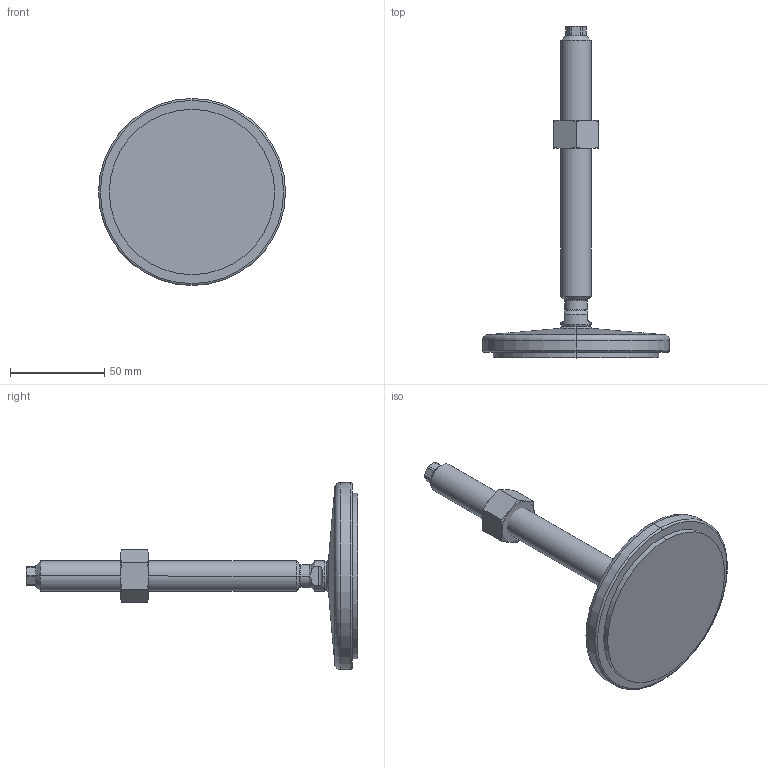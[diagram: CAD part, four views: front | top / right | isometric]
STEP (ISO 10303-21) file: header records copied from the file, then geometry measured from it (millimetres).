
FILE_DESCRIPTION (( 'STEP AP214' ), '1' );
FILE_NAME ('21-100-M16-150-D1-VK.step', '2020-10-02T17:37:23', ( '' ), ( '' ), 'SwSTEP 2.0', 'SolidWorks 2019', '' );
FILE_SCHEMA (( 'AUTOMOTIVE_DESIGN' ));
Length unit declared in the file: millimetre
Products named in the file (4): WB21_Fußteller 21^WB21_V_D1-100-R10-B7 (M8 M10_M12_M16); 21-100-M16-150-D1-VK; WB4032^WB21_V_M16; WB21_Spindel_V^WB21_V_M16-150
Assembly tree (3 placements, depth 2):
  21-100-M16-150-D1-VK
    WB21_Fußteller 21^WB21_V_D1-100-R10-B7 (M8 M10_M12_M16)
    WB21_Spindel_V^WB21_V_M16-150
    WB4032^WB21_V_M16
Bounding box: 99 x 175.64 x 99 mm (x, y, z)
Volume: 133528.6 mm3; surface area: 29672.3 mm2
Topology: 3 solids, 3 shells, 98 faces, 219 edges, 129 vertices
Faces by surface type: cone 29, plane 28, cylinder 27, torus 10, sphere 4
Entity records: 3121 total; most frequent: CARTESIAN_POINT 728, DIRECTION 476, ORIENTED_EDGE 438, EDGE_CURVE 219, AXIS2_PLACEMENT_3D 205, VERTEX_POINT 129, EDGE_LOOP 102, CIRCLE 101
